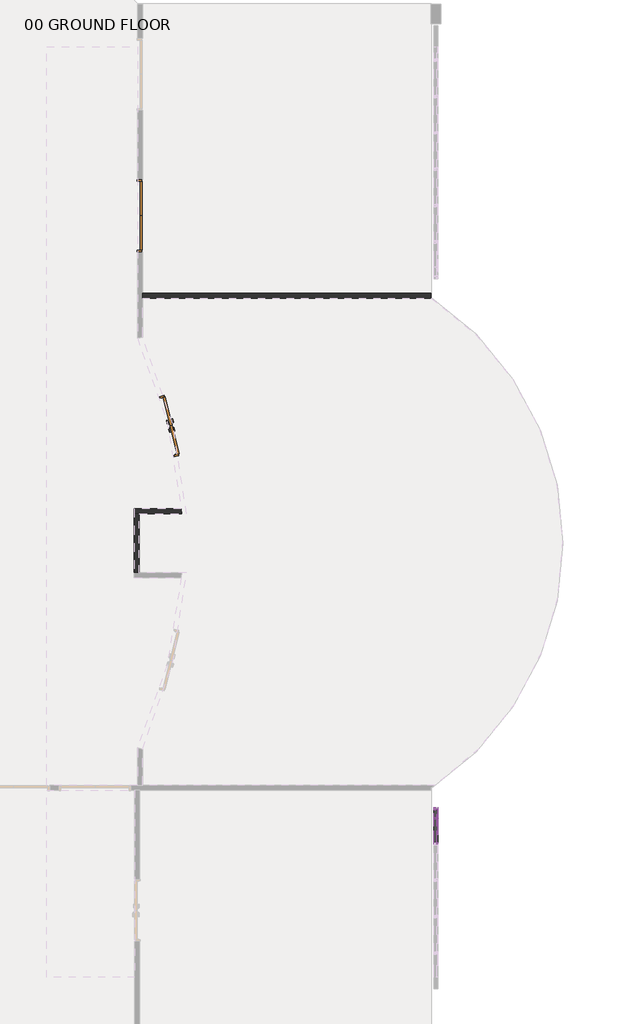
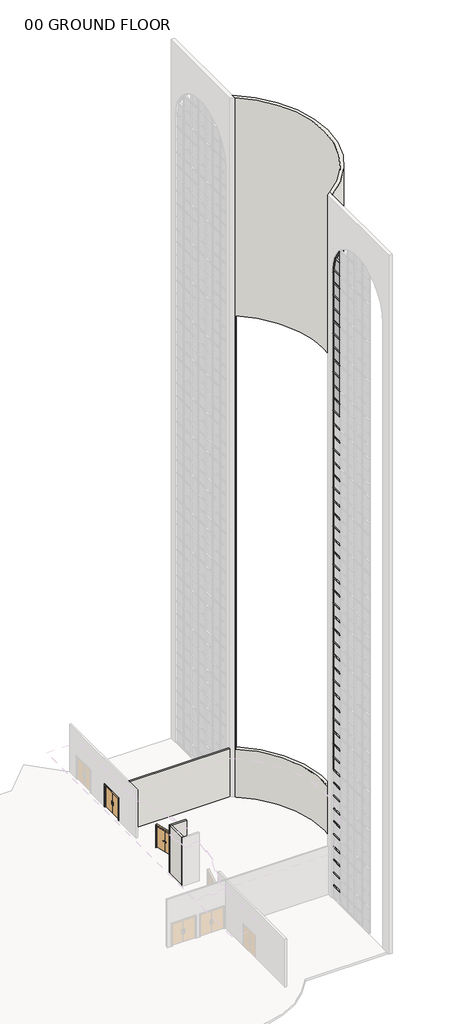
# One storey, part 23 of 33: 92 members, 12 plates, 4 walls, 2 doors.
"""IFC4 building model written with IfcOpenShell, lengths in millimetres."""

from ifc_helpers import new_model, si_unit, frame, origin, origin_with_axes, place, context, project, spatial, polyline, circle_curve, outline, extrude, transform, mapped, element, save
from ifc_brep_helpers import plane_surface, cylinder_surface, revolved_surface, advanced_brep
from components import door_2f250f70, door_b3a27a16, member_c70f70ef, member_fd4924df, member_7098706b, member_828826df, member_4be9bcbc, member_26cc132b, member_75074519, member_73c23c35, system_panel_glazed_b0e4ebfd, system_panel_glazed_f13d1862, system_panel_glazed_de491f5c

model = new_model("IFC4")

# Units and contexts
model_context = context("Model", 3, world=origin())
ifc_project = project(units=[si_unit("LENGTHUNIT", "METRE", prefix="MILLI")], contexts=[model_context])

# Site, building, storey
site = spatial("IfcSite", under=ifc_project)
building = spatial("IfcBuilding", under=site)
storey = spatial("IfcBuildingStorey", under=building, Name="00 GROUND FLOOR", Elevation=0.0)

# Doors
placement = place(None, origin())
door_shape = door_2f250f70(model_context)
element("IfcDoor", 1, ObjectType="Door-Passage-Double-Flush : 72\" x 82\"", at=placement, inside=storey, context=model_context, shape_type="MappedRepresentation", body=[
    mapped(door_shape, transform((35885.2621514, 20561.4429091, 0.0), x_axis=(0.23975975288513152, -0.9708322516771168, 0.0), y_axis=(0.9708322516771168, 0.23975975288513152, 0.0), z_axis=(0.0, 0.0, 1.0))),
])
door_2_shape = door_b3a27a16(model_context)
element("IfcDoor", 2, ObjectType="Door-Passage-Double-Flush-Dbl_Acting : 84\" x 84\"", at=placement, inside=storey, context=model_context, shape_type="MappedRepresentation", body=[
    mapped(door_2_shape, transform((34956.2675515, 27101.8, 0.0), x_axis=(0.0, -1.0, 0.0), y_axis=(1.0, 0.0, 0.0), z_axis=(0.0, 0.0, 1.0))),
])

# Members
member_shape = member_c70f70ef(model_context)
element("IfcMember", 3, ObjectType="Rectangular Mullion : 2.5\" x 5\" rectangular", at=placement, inside=storey, context=model_context, shape_type="MappedRepresentation", body=[
    mapped(member_shape, transform((44184.4050515, 8626.475, 1219.2), x_axis=(0.0, 0.0, 1.0), y_axis=(1.0, 0.0, 0.0), z_axis=(0.0, 1.0, 0.0))),
])
element("IfcMember", 4, ObjectType="Rectangular Mullion : 2.5\" x 5\" rectangular", at=placement, inside=storey, context=model_context, shape_type="MappedRepresentation", body=[
    mapped(member_shape, transform((44184.4050515, 8626.475, 2438.4), x_axis=(0.0, 0.0, 1.0), y_axis=(1.0, 0.0, 0.0), z_axis=(0.0, 1.0, 0.0))),
])
element("IfcMember", 5, ObjectType="Rectangular Mullion : 2.5\" x 5\" rectangular", at=placement, inside=storey, context=model_context, shape_type="MappedRepresentation", body=[
    mapped(member_shape, transform((44184.4050515, 8626.475, 3657.6), x_axis=(0.0, 0.0, 1.0), y_axis=(1.0, 0.0, 0.0), z_axis=(0.0, 1.0, 0.0))),
])
element("IfcMember", 6, ObjectType="Rectangular Mullion : 2.5\" x 5\" rectangular", at=placement, inside=storey, context=model_context, shape_type="MappedRepresentation", body=[
    mapped(member_shape, transform((44184.4050515, 8626.475, 4876.8), x_axis=(0.0, 0.0, 1.0), y_axis=(1.0, 0.0, 0.0), z_axis=(0.0, 1.0, 0.0))),
])
element("IfcMember", 7, ObjectType="Rectangular Mullion : 2.5\" x 5\" rectangular", at=placement, inside=storey, context=model_context, shape_type="MappedRepresentation", body=[
    mapped(member_shape, transform((44184.4050515, 8626.475, 6096.0), x_axis=(0.0, 0.0, 1.0), y_axis=(1.0, 0.0, 0.0), z_axis=(0.0, 1.0, 0.0))),
])
element("IfcMember", 8, ObjectType="Rectangular Mullion : 2.5\" x 5\" rectangular", at=placement, inside=storey, context=model_context, shape_type="MappedRepresentation", body=[
    mapped(member_shape, transform((44184.4050515, 8626.475, 7315.2), x_axis=(0.0, 0.0, 1.0), y_axis=(1.0, 0.0, 0.0), z_axis=(0.0, 1.0, 0.0))),
])
element("IfcMember", 9, ObjectType="Rectangular Mullion : 2.5\" x 5\" rectangular", at=placement, inside=storey, context=model_context, shape_type="MappedRepresentation", body=[
    mapped(member_shape, transform((44184.4050515, 8626.475, 8534.4), x_axis=(0.0, 0.0, 1.0), y_axis=(1.0, 0.0, 0.0), z_axis=(0.0, 1.0, 0.0))),
])
element("IfcMember", 10, ObjectType="Rectangular Mullion : 2.5\" x 5\" rectangular", at=placement, inside=storey, context=model_context, shape_type="MappedRepresentation", body=[
    mapped(member_shape, transform((44184.4050515, 8626.475, 9753.6), x_axis=(0.0, 0.0, 1.0), y_axis=(1.0, 0.0, 0.0), z_axis=(0.0, 1.0, 0.0))),
])
element("IfcMember", 11, ObjectType="Rectangular Mullion : 2.5\" x 5\" rectangular", at=placement, inside=storey, context=model_context, shape_type="MappedRepresentation", body=[
    mapped(member_shape, transform((44184.4050515, 8626.475, 10972.8), x_axis=(0.0, 0.0, 1.0), y_axis=(1.0, 0.0, 0.0), z_axis=(0.0, 1.0, 0.0))),
])
element("IfcMember", 12, ObjectType="Rectangular Mullion : 2.5\" x 5\" rectangular", at=placement, inside=storey, context=model_context, shape_type="MappedRepresentation", body=[
    mapped(member_shape, transform((44184.4050515, 8626.475, 12192.0), x_axis=(0.0, 0.0, 1.0), y_axis=(1.0, 0.0, 0.0), z_axis=(0.0, 1.0, 0.0))),
])
element("IfcMember", 13, ObjectType="Rectangular Mullion : 2.5\" x 5\" rectangular", at=placement, inside=storey, context=model_context, shape_type="MappedRepresentation", body=[
    mapped(member_shape, transform((44184.4050515, 8626.475, 13411.2), x_axis=(0.0, 0.0, 1.0), y_axis=(1.0, 0.0, 0.0), z_axis=(0.0, 1.0, 0.0))),
])
element("IfcMember", 14, ObjectType="Rectangular Mullion : 2.5\" x 5\" rectangular", at=placement, inside=storey, context=model_context, shape_type="MappedRepresentation", body=[
    mapped(member_shape, transform((44184.4050515, 8626.475, 14630.4), x_axis=(0.0, 0.0, 1.0), y_axis=(1.0, 0.0, 0.0), z_axis=(0.0, 1.0, 0.0))),
])
element("IfcMember", 15, ObjectType="Rectangular Mullion : 2.5\" x 5\" rectangular", at=placement, inside=storey, context=model_context, shape_type="MappedRepresentation", body=[
    mapped(member_shape, transform((44184.4050515, 8626.475, 15849.6), x_axis=(0.0, 0.0, 1.0), y_axis=(1.0, 0.0, 0.0), z_axis=(0.0, 1.0, 0.0))),
])
element("IfcMember", 16, ObjectType="Rectangular Mullion : 2.5\" x 5\" rectangular", at=placement, inside=storey, context=model_context, shape_type="MappedRepresentation", body=[
    mapped(member_shape, transform((44184.4050515, 8626.475, 17068.8), x_axis=(0.0, 0.0, 1.0), y_axis=(1.0, 0.0, 0.0), z_axis=(0.0, 1.0, 0.0))),
])
element("IfcMember", 17, ObjectType="Rectangular Mullion : 2.5\" x 5\" rectangular", at=placement, inside=storey, context=model_context, shape_type="MappedRepresentation", body=[
    mapped(member_shape, transform((44184.4050515, 8626.475, 18288.0), x_axis=(0.0, 0.0, 1.0), y_axis=(1.0, 0.0, 0.0), z_axis=(0.0, 1.0, 0.0))),
])
element("IfcMember", 18, ObjectType="Rectangular Mullion : 2.5\" x 5\" rectangular", at=placement, inside=storey, context=model_context, shape_type="MappedRepresentation", body=[
    mapped(member_shape, transform((44184.4050515, 8626.475, 19507.2), x_axis=(0.0, 0.0, 1.0), y_axis=(1.0, 0.0, 0.0), z_axis=(0.0, 1.0, 0.0))),
])
element("IfcMember", 19, ObjectType="Rectangular Mullion : 2.5\" x 5\" rectangular", at=placement, inside=storey, context=model_context, shape_type="MappedRepresentation", body=[
    mapped(member_shape, transform((44184.4050515, 8626.475, 20726.4), x_axis=(0.0, 0.0, 1.0), y_axis=(1.0, 0.0, 0.0), z_axis=(0.0, 1.0, 0.0))),
])
element("IfcMember", 20, ObjectType="Rectangular Mullion : 2.5\" x 5\" rectangular", at=placement, inside=storey, context=model_context, shape_type="MappedRepresentation", body=[
    mapped(member_shape, transform((44184.4050515, 8626.475, 21945.6), x_axis=(0.0, 0.0, 1.0), y_axis=(1.0, 0.0, 0.0), z_axis=(0.0, 1.0, 0.0))),
])
element("IfcMember", 21, ObjectType="Rectangular Mullion : 2.5\" x 5\" rectangular", at=placement, inside=storey, context=model_context, shape_type="MappedRepresentation", body=[
    mapped(member_shape, transform((44184.4050515, 8626.475, 23164.8), x_axis=(0.0, 0.0, 1.0), y_axis=(1.0, 0.0, 0.0), z_axis=(0.0, 1.0, 0.0))),
])
element("IfcMember", 22, ObjectType="Rectangular Mullion : 2.5\" x 5\" rectangular", at=placement, inside=storey, context=model_context, shape_type="MappedRepresentation", body=[
    mapped(member_shape, transform((44184.4050515, 8626.475, 24384.0), x_axis=(0.0, 0.0, 1.0), y_axis=(1.0, 0.0, 0.0), z_axis=(0.0, 1.0, 0.0))),
])
element("IfcMember", 23, ObjectType="Rectangular Mullion : 2.5\" x 5\" rectangular", at=placement, inside=storey, context=model_context, shape_type="MappedRepresentation", body=[
    mapped(member_shape, transform((44184.4050515, 8626.475, 25603.2), x_axis=(0.0, 0.0, 1.0), y_axis=(1.0, 0.0, 0.0), z_axis=(0.0, 1.0, 0.0))),
])
element("IfcMember", 24, ObjectType="Rectangular Mullion : 2.5\" x 5\" rectangular", at=placement, inside=storey, context=model_context, shape_type="MappedRepresentation", body=[
    mapped(member_shape, transform((44184.4050515, 8626.475, 26822.4), x_axis=(0.0, 0.0, 1.0), y_axis=(1.0, 0.0, 0.0), z_axis=(0.0, 1.0, 0.0))),
])
element("IfcMember", 25, ObjectType="Rectangular Mullion : 2.5\" x 5\" rectangular", at=placement, inside=storey, context=model_context, shape_type="MappedRepresentation", body=[
    mapped(member_shape, transform((44184.4050515, 8626.475, 28041.6), x_axis=(0.0, 0.0, 1.0), y_axis=(1.0, 0.0, 0.0), z_axis=(0.0, 1.0, 0.0))),
])
element("IfcMember", 26, ObjectType="Rectangular Mullion : 2.5\" x 5\" rectangular", at=placement, inside=storey, context=model_context, shape_type="MappedRepresentation", body=[
    mapped(member_shape, transform((44184.4050515, 8626.475, 29260.8), x_axis=(0.0, 0.0, 1.0), y_axis=(1.0, 0.0, 0.0), z_axis=(0.0, 1.0, 0.0))),
])
element("IfcMember", 27, ObjectType="Rectangular Mullion : 2.5\" x 5\" rectangular", at=placement, inside=storey, context=model_context, shape_type="MappedRepresentation", body=[
    mapped(member_shape, transform((44184.4050515, 8626.475, 30480.0), x_axis=(0.0, 0.0, 1.0), y_axis=(1.0, 0.0, 0.0), z_axis=(0.0, 1.0, 0.0))),
])
element("IfcMember", 28, ObjectType="Rectangular Mullion : 2.5\" x 5\" rectangular", at=placement, inside=storey, context=model_context, shape_type="MappedRepresentation", body=[
    mapped(member_shape, transform((44184.4050515, 8626.475, 31699.2), x_axis=(0.0, 0.0, 1.0), y_axis=(1.0, 0.0, 0.0), z_axis=(0.0, 1.0, 0.0))),
])
element("IfcMember", 29, ObjectType="Rectangular Mullion : 2.5\" x 5\" rectangular", at=placement, inside=storey, context=model_context, shape_type="MappedRepresentation", body=[
    mapped(member_shape, transform((44184.4050515, 8626.475, 32918.4), x_axis=(0.0, 0.0, 1.0), y_axis=(1.0, 0.0, 0.0), z_axis=(0.0, 1.0, 0.0))),
])
element("IfcMember", 30, ObjectType="Rectangular Mullion : 2.5\" x 5\" rectangular", at=placement, inside=storey, context=model_context, shape_type="MappedRepresentation", body=[
    mapped(member_shape, transform((44184.4050515, 8626.475, 34137.6), x_axis=(0.0, 0.0, 1.0), y_axis=(1.0, 0.0, 0.0), z_axis=(0.0, 1.0, 0.0))),
])
element("IfcMember", 31, ObjectType="Rectangular Mullion : 2.5\" x 5\" rectangular", at=placement, inside=storey, context=model_context, shape_type="MappedRepresentation", body=[
    mapped(member_shape, transform((44184.4050515, 8626.475, 35356.8), x_axis=(0.0, 0.0, 1.0), y_axis=(1.0, 0.0, 0.0), z_axis=(0.0, 1.0, 0.0))),
])
element("IfcMember", 32, ObjectType="Rectangular Mullion : 2.5\" x 5\" rectangular", at=placement, inside=storey, context=model_context, shape_type="MappedRepresentation", body=[
    mapped(member_shape, transform((44184.4050515, 8626.475, 36576.0), x_axis=(0.0, 0.0, 1.0), y_axis=(1.0, 0.0, 0.0), z_axis=(0.0, 1.0, 0.0))),
])
element("IfcMember", 33, ObjectType="Rectangular Mullion : 2.5\" x 5\" rectangular", at=placement, inside=storey, context=model_context, shape_type="MappedRepresentation", body=[
    mapped(member_shape, transform((44184.4050515, 8626.475, 37795.2), x_axis=(0.0, 0.0, 1.0), y_axis=(1.0, 0.0, 0.0), z_axis=(0.0, 1.0, 0.0))),
])
element("IfcMember", 34, ObjectType="Rectangular Mullion : 2.5\" x 5\" rectangular", at=placement, inside=storey, context=model_context, shape_type="MappedRepresentation", body=[
    mapped(member_shape, transform((44184.4050515, 8626.475, 39014.4), x_axis=(0.0, 0.0, 1.0), y_axis=(1.0, 0.0, 0.0), z_axis=(0.0, 1.0, 0.0))),
])
element("IfcMember", 35, ObjectType="Rectangular Mullion : 2.5\" x 5\" rectangular", at=placement, inside=storey, context=model_context, shape_type="MappedRepresentation", body=[
    mapped(member_shape, transform((44184.4050515, 8626.475, 40233.6), x_axis=(0.0, 0.0, 1.0), y_axis=(1.0, 0.0, 0.0), z_axis=(0.0, 1.0, 0.0))),
])
element("IfcMember", 36, ObjectType="Rectangular Mullion : 2.5\" x 5\" rectangular", at=placement, inside=storey, context=model_context, shape_type="MappedRepresentation", body=[
    mapped(member_shape, transform((44184.4050515, 8626.475, 41452.8), x_axis=(0.0, 0.0, 1.0), y_axis=(1.0, 0.0, 0.0), z_axis=(0.0, 1.0, 0.0))),
])
element("IfcMember", 37, ObjectType="Rectangular Mullion : 2.5\" x 5\" rectangular", at=placement, inside=storey, context=model_context, shape_type="MappedRepresentation", body=[
    mapped(member_shape, transform((44184.4050515, 8626.475, 42672.0), x_axis=(0.0, 0.0, 1.0), y_axis=(1.0, 0.0, 0.0), z_axis=(0.0, 1.0, 0.0))),
])
element("IfcMember", 38, ObjectType="Rectangular Mullion : 2.5\" x 5\" rectangular", at=placement, inside=storey, context=model_context, shape_type="MappedRepresentation", body=[
    mapped(member_shape, transform((44184.4050515, 8626.475, 43891.2), x_axis=(0.0, 0.0, 1.0), y_axis=(1.0, 0.0, 0.0), z_axis=(0.0, 1.0, 0.0))),
])
element("IfcMember", 39, ObjectType="Rectangular Mullion : 2.5\" x 5\" rectangular", at=placement, inside=storey, context=model_context, shape_type="MappedRepresentation", body=[
    mapped(member_shape, transform((44184.4050515, 8626.475, 45110.4), x_axis=(0.0, 0.0, 1.0), y_axis=(1.0, 0.0, 0.0), z_axis=(0.0, 1.0, 0.0))),
])
element("IfcMember", 40, ObjectType="Rectangular Mullion : 2.5\" x 5\" rectangular", at=placement, inside=storey, context=model_context, shape_type="MappedRepresentation", body=[
    mapped(member_shape, transform((44184.4050515, 8626.475, 46329.6), x_axis=(0.0, 0.0, 1.0), y_axis=(1.0, 0.0, 0.0), z_axis=(0.0, 1.0, 0.0))),
])
element("IfcMember", 41, ObjectType="Rectangular Mullion : 2.5\" x 5\" rectangular", at=placement, inside=storey, context=model_context, shape_type="MappedRepresentation", body=[
    mapped(member_shape, transform((44184.4050515, 8626.475, 47548.8), x_axis=(0.0, 0.0, 1.0), y_axis=(1.0, 0.0, 0.0), z_axis=(0.0, 1.0, 0.0))),
])
element("IfcMember", 42, ObjectType="Rectangular Mullion : 2.5\" x 5\" rectangular", at=placement, inside=storey, context=model_context, shape_type="MappedRepresentation", body=[
    mapped(member_shape, transform((44184.4050515, 8626.475, 48768.0), x_axis=(0.0, 0.0, 1.0), y_axis=(1.0, 0.0, 0.0), z_axis=(0.0, 1.0, 0.0))),
])
element("IfcMember", 43, ObjectType="Rectangular Mullion : 2.5\" x 5\" rectangular", at=placement, inside=storey, context=model_context, shape_type="MappedRepresentation", body=[
    mapped(member_shape, transform((44184.4050515, 8626.475, 49987.2), x_axis=(0.0, 0.0, 1.0), y_axis=(1.0, 0.0, 0.0), z_axis=(0.0, 1.0, 0.0))),
])
element("IfcMember", 44, ObjectType="Rectangular Mullion : 2.5\" x 5\" rectangular", at=placement, inside=storey, context=model_context, shape_type="MappedRepresentation", body=[
    mapped(member_shape, transform((44184.4050515, 8626.475, 51206.4), x_axis=(0.0, 0.0, 1.0), y_axis=(1.0, 0.0, 0.0), z_axis=(0.0, 1.0, 0.0))),
])
element("IfcMember", 45, ObjectType="Rectangular Mullion : 2.5\" x 5\" rectangular", at=placement, inside=storey, context=model_context, shape_type="MappedRepresentation", body=[
    mapped(member_shape, transform((44184.4050515, 8626.475, 52425.6), x_axis=(0.0, 0.0, 1.0), y_axis=(1.0, 0.0, 0.0), z_axis=(0.0, 1.0, 0.0))),
])
element("IfcMember", 46, ObjectType="Rectangular Mullion : 2.5\" x 5\" rectangular", at=placement, inside=storey, context=model_context, shape_type="MappedRepresentation", body=[
    mapped(member_shape, transform((44184.4050515, 8626.475, 53644.8), x_axis=(0.0, 0.0, 1.0), y_axis=(1.0, 0.0, 0.0), z_axis=(0.0, 1.0, 0.0))),
])
element("IfcMember", 47, ObjectType="Rectangular Mullion : 2.5\" x 5\" rectangular", at=placement, inside=storey, context=model_context, shape_type="MappedRepresentation", body=[
    mapped(member_shape, transform((44184.4050515, 8626.475, 54864.0), x_axis=(0.0, 0.0, 1.0), y_axis=(1.0, 0.0, 0.0), z_axis=(0.0, 1.0, 0.0))),
])
element("IfcMember", 48, ObjectType="Rectangular Mullion : 2.5\" x 5\" rectangular", at=placement, inside=storey, context=model_context, shape_type="MappedRepresentation", body=[
    mapped(member_shape, transform((44184.4050515, 8626.475, 56083.2), x_axis=(0.0, 0.0, 1.0), y_axis=(1.0, 0.0, 0.0), z_axis=(0.0, 1.0, 0.0))),
])
element("IfcMember", 49, ObjectType="Rectangular Mullion : 2.5\" x 5\" rectangular", at=placement, inside=storey, context=model_context, shape_type="MappedRepresentation", body=[
    mapped(member_shape, transform((44184.4050515, 8626.475, 57302.4), x_axis=(0.0, 0.0, 1.0), y_axis=(1.0, 0.0, 0.0), z_axis=(0.0, 1.0, 0.0))),
])
element("IfcMember", 50, ObjectType="Rectangular Mullion : 2.5\" x 5\" rectangular", at=placement, inside=storey, context=model_context, shape_type="MappedRepresentation", body=[
    mapped(member_shape, transform((44184.4050515, 8626.475, 58521.6), x_axis=(0.0, 0.0, 1.0), y_axis=(1.0, 0.0, 0.0), z_axis=(0.0, 1.0, 0.0))),
])
member_2_shape = member_fd4924df(model_context)
element("IfcMember", 51, ObjectType="Rectangular Mullion : 2.5\" x 5\" rectangular", at=placement, inside=storey, context=model_context, shape_type="MappedRepresentation", body=[
    mapped(member_2_shape, transform((44184.4050515, 8689.975, 59436.0), x_axis=(0.0, 1.0, 0.0), y_axis=(1.0, 0.0, 0.0), z_axis=(0.0, 0.0, -1.0))),
])
member_3_shape = member_7098706b(model_context)
element("IfcMember", 52, ObjectType="Rectangular Mullion : 2.5\" x 5\" rectangular", at=placement, inside=storey, context=model_context, shape_type="MappedRepresentation", body=[
    mapped(member_3_shape, transform((44184.4050515, 8678.2345297, 59740.8), x_axis=(0.0, 0.9970370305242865, 0.07692307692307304), y_axis=(1.0, 0.0, 0.0), z_axis=(0.0, 0.07692307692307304, -0.9970370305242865))),
])
member_4_shape = member_828826df(model_context)
element("IfcMember", 53, ObjectType="Rectangular Mullion : 2.5\" x 5\" rectangular", at=placement, inside=storey, context=model_context, shape_type="MappedRepresentation", body=[
    mapped(member_4_shape, transform((44184.4050515, 8385.175, 60960.0), x_axis=(0.0, 0.9230769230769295, 0.3846153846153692), y_axis=(1.0, 0.0, 0.0), z_axis=(0.0, 0.3846153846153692, -0.9230769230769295))),
])
member_5_shape = member_4be9bcbc(model_context)
element("IfcMember", 54, ObjectType="Rectangular Mullion : 2.5\" x 5\" rectangular", at=placement, inside=storey, context=model_context, shape_type="MappedRepresentation", body=[
    mapped(member_5_shape, transform((44184.4050515, 8678.2345297, 59740.8), x_axis=(0.0, 0.0, 1.0), y_axis=(1.0, 0.0, 0.0), z_axis=(0.0, 1.0, 0.0))),
])
member_6_shape = member_26cc132b(model_context)
element("IfcMember", 55, ObjectType="Rectangular Mullion : 2.5\" x 5\" rectangular", at=placement, inside=storey, context=model_context, shape_type="MappedRepresentation", body=[
    mapped(member_6_shape, transform((44184.4050515, 8385.175, 60960.0), x_axis=(0.0, 0.0, 1.0), y_axis=(1.0, 0.0, 0.0), z_axis=(0.0, 1.0, 0.0))),
])
member_7_shape = member_75074519(model_context)
element("IfcMember", 56, ObjectType="Rectangular Mullion : 2.5\" x 5\" rectangular", at=placement, inside=storey, context=model_context, shape_type="MappedRepresentation", body=[
    mapped(member_7_shape, transform((44184.4050515, 8689.975, 12192.0), x_axis=(0.0, 1.0, 0.0), y_axis=(1.0, 0.0, 0.0), z_axis=(0.0, 0.0, -1.0))),
])
element("IfcMember", 57, ObjectType="Rectangular Mullion : 2.5\" x 5\" rectangular", at=placement, inside=storey, context=model_context, shape_type="MappedRepresentation", body=[
    mapped(member_7_shape, transform((44184.4050515, 8689.975, 13411.2), x_axis=(0.0, 1.0, 0.0), y_axis=(1.0, 0.0, 0.0), z_axis=(0.0, 0.0, -1.0))),
])
element("IfcMember", 58, ObjectType="Rectangular Mullion : 2.5\" x 5\" rectangular", at=placement, inside=storey, context=model_context, shape_type="MappedRepresentation", body=[
    mapped(member_7_shape, transform((44184.4050515, 8689.975, 14630.4), x_axis=(0.0, 1.0, 0.0), y_axis=(1.0, 0.0, 0.0), z_axis=(0.0, 0.0, -1.0))),
])
element("IfcMember", 59, ObjectType="Rectangular Mullion : 2.5\" x 5\" rectangular", at=placement, inside=storey, context=model_context, shape_type="MappedRepresentation", body=[
    mapped(member_7_shape, transform((44184.4050515, 8689.975, 15849.6), x_axis=(0.0, 1.0, 0.0), y_axis=(1.0, 0.0, 0.0), z_axis=(0.0, 0.0, -1.0))),
])
element("IfcMember", 60, ObjectType="Rectangular Mullion : 2.5\" x 5\" rectangular", at=placement, inside=storey, context=model_context, shape_type="MappedRepresentation", body=[
    mapped(member_7_shape, transform((44184.4050515, 8689.975, 17068.8), x_axis=(0.0, 1.0, 0.0), y_axis=(1.0, 0.0, 0.0), z_axis=(0.0, 0.0, -1.0))),
])
element("IfcMember", 61, ObjectType="Rectangular Mullion : 2.5\" x 5\" rectangular", at=placement, inside=storey, context=model_context, shape_type="MappedRepresentation", body=[
    mapped(member_7_shape, transform((44184.4050515, 8689.975, 18288.0), x_axis=(0.0, 1.0, 0.0), y_axis=(1.0, 0.0, 0.0), z_axis=(0.0, 0.0, -1.0))),
])
element("IfcMember", 62, ObjectType="Rectangular Mullion : 2.5\" x 5\" rectangular", at=placement, inside=storey, context=model_context, shape_type="MappedRepresentation", body=[
    mapped(member_7_shape, transform((44184.4050515, 8689.975, 19507.2), x_axis=(0.0, 1.0, 0.0), y_axis=(1.0, 0.0, 0.0), z_axis=(0.0, 0.0, -1.0))),
])
element("IfcMember", 63, ObjectType="Rectangular Mullion : 2.5\" x 5\" rectangular", at=placement, inside=storey, context=model_context, shape_type="MappedRepresentation", body=[
    mapped(member_7_shape, transform((44184.4050515, 8689.975, 20726.4), x_axis=(0.0, 1.0, 0.0), y_axis=(1.0, 0.0, 0.0), z_axis=(0.0, 0.0, -1.0))),
])
element("IfcMember", 64, ObjectType="Rectangular Mullion : 2.5\" x 5\" rectangular", at=placement, inside=storey, context=model_context, shape_type="MappedRepresentation", body=[
    mapped(member_7_shape, transform((44184.4050515, 8689.975, 21945.6), x_axis=(0.0, 1.0, 0.0), y_axis=(1.0, 0.0, 0.0), z_axis=(0.0, 0.0, -1.0))),
])
element("IfcMember", 65, ObjectType="Rectangular Mullion : 2.5\" x 5\" rectangular", at=placement, inside=storey, context=model_context, shape_type="MappedRepresentation", body=[
    mapped(member_7_shape, transform((44184.4050515, 8689.975, 23164.8), x_axis=(0.0, 1.0, 0.0), y_axis=(1.0, 0.0, 0.0), z_axis=(0.0, 0.0, -1.0))),
])
element("IfcMember", 66, ObjectType="Rectangular Mullion : 2.5\" x 5\" rectangular", at=placement, inside=storey, context=model_context, shape_type="MappedRepresentation", body=[
    mapped(member_7_shape, transform((44184.4050515, 8689.975, 24384.0), x_axis=(0.0, 1.0, 0.0), y_axis=(1.0, 0.0, 0.0), z_axis=(0.0, 0.0, -1.0))),
])
element("IfcMember", 67, ObjectType="Rectangular Mullion : 2.5\" x 5\" rectangular", at=placement, inside=storey, context=model_context, shape_type="MappedRepresentation", body=[
    mapped(member_7_shape, transform((44184.4050515, 8689.975, 25603.2), x_axis=(0.0, 1.0, 0.0), y_axis=(1.0, 0.0, 0.0), z_axis=(0.0, 0.0, -1.0))),
])
element("IfcMember", 68, ObjectType="Rectangular Mullion : 2.5\" x 5\" rectangular", at=placement, inside=storey, context=model_context, shape_type="MappedRepresentation", body=[
    mapped(member_7_shape, transform((44184.4050515, 8689.975, 26822.4), x_axis=(0.0, 1.0, 0.0), y_axis=(1.0, 0.0, 0.0), z_axis=(0.0, 0.0, -1.0))),
])
element("IfcMember", 69, ObjectType="Rectangular Mullion : 2.5\" x 5\" rectangular", at=placement, inside=storey, context=model_context, shape_type="MappedRepresentation", body=[
    mapped(member_7_shape, transform((44184.4050515, 8689.975, 28041.6), x_axis=(0.0, 1.0, 0.0), y_axis=(1.0, 0.0, 0.0), z_axis=(0.0, 0.0, -1.0))),
])
element("IfcMember", 70, ObjectType="Rectangular Mullion : 2.5\" x 5\" rectangular", at=placement, inside=storey, context=model_context, shape_type="MappedRepresentation", body=[
    mapped(member_7_shape, transform((44184.4050515, 8689.975, 29260.8), x_axis=(0.0, 1.0, 0.0), y_axis=(1.0, 0.0, 0.0), z_axis=(0.0, 0.0, -1.0))),
])
element("IfcMember", 71, ObjectType="Rectangular Mullion : 2.5\" x 5\" rectangular", at=placement, inside=storey, context=model_context, shape_type="MappedRepresentation", body=[
    mapped(member_7_shape, transform((44184.4050515, 8689.975, 30480.0), x_axis=(0.0, 1.0, 0.0), y_axis=(1.0, 0.0, 0.0), z_axis=(0.0, 0.0, -1.0))),
])
element("IfcMember", 72, ObjectType="Rectangular Mullion : 2.5\" x 5\" rectangular", at=placement, inside=storey, context=model_context, shape_type="MappedRepresentation", body=[
    mapped(member_7_shape, transform((44184.4050515, 8689.975, 31699.2), x_axis=(0.0, 1.0, 0.0), y_axis=(1.0, 0.0, 0.0), z_axis=(0.0, 0.0, -1.0))),
])
element("IfcMember", 73, ObjectType="Rectangular Mullion : 2.5\" x 5\" rectangular", at=placement, inside=storey, context=model_context, shape_type="MappedRepresentation", body=[
    mapped(member_7_shape, transform((44184.4050515, 8689.975, 32918.4), x_axis=(0.0, 1.0, 0.0), y_axis=(1.0, 0.0, 0.0), z_axis=(0.0, 0.0, -1.0))),
])
element("IfcMember", 74, ObjectType="Rectangular Mullion : 2.5\" x 5\" rectangular", at=placement, inside=storey, context=model_context, shape_type="MappedRepresentation", body=[
    mapped(member_7_shape, transform((44184.4050515, 8689.975, 34137.6), x_axis=(0.0, 1.0, 0.0), y_axis=(1.0, 0.0, 0.0), z_axis=(0.0, 0.0, -1.0))),
])
element("IfcMember", 75, ObjectType="Rectangular Mullion : 2.5\" x 5\" rectangular", at=placement, inside=storey, context=model_context, shape_type="MappedRepresentation", body=[
    mapped(member_7_shape, transform((44184.4050515, 8689.975, 35356.8), x_axis=(0.0, 1.0, 0.0), y_axis=(1.0, 0.0, 0.0), z_axis=(0.0, 0.0, -1.0))),
])
element("IfcMember", 76, ObjectType="Rectangular Mullion : 2.5\" x 5\" rectangular", at=placement, inside=storey, context=model_context, shape_type="MappedRepresentation", body=[
    mapped(member_7_shape, transform((44184.4050515, 8689.975, 36576.0), x_axis=(0.0, 1.0, 0.0), y_axis=(1.0, 0.0, 0.0), z_axis=(0.0, 0.0, -1.0))),
])
element("IfcMember", 77, ObjectType="Rectangular Mullion : 2.5\" x 5\" rectangular", at=placement, inside=storey, context=model_context, shape_type="MappedRepresentation", body=[
    mapped(member_7_shape, transform((44184.4050515, 8689.975, 37795.2), x_axis=(0.0, 1.0, 0.0), y_axis=(1.0, 0.0, 0.0), z_axis=(0.0, 0.0, -1.0))),
])
element("IfcMember", 78, ObjectType="Rectangular Mullion : 2.5\" x 5\" rectangular", at=placement, inside=storey, context=model_context, shape_type="MappedRepresentation", body=[
    mapped(member_7_shape, transform((44184.4050515, 8689.975, 39014.4), x_axis=(0.0, 1.0, 0.0), y_axis=(1.0, 0.0, 0.0), z_axis=(0.0, 0.0, -1.0))),
])
element("IfcMember", 79, ObjectType="Rectangular Mullion : 2.5\" x 5\" rectangular", at=placement, inside=storey, context=model_context, shape_type="MappedRepresentation", body=[
    mapped(member_7_shape, transform((44184.4050515, 8689.975, 40233.6), x_axis=(0.0, 1.0, 0.0), y_axis=(1.0, 0.0, 0.0), z_axis=(0.0, 0.0, -1.0))),
])
element("IfcMember", 80, ObjectType="Rectangular Mullion : 2.5\" x 5\" rectangular", at=placement, inside=storey, context=model_context, shape_type="MappedRepresentation", body=[
    mapped(member_7_shape, transform((44184.4050515, 8689.975, 41452.8), x_axis=(0.0, 1.0, 0.0), y_axis=(1.0, 0.0, 0.0), z_axis=(0.0, 0.0, -1.0))),
])
element("IfcMember", 81, ObjectType="Rectangular Mullion : 2.5\" x 5\" rectangular", at=placement, inside=storey, context=model_context, shape_type="MappedRepresentation", body=[
    mapped(member_7_shape, transform((44184.4050515, 8689.975, 42672.0), x_axis=(0.0, 1.0, 0.0), y_axis=(1.0, 0.0, 0.0), z_axis=(0.0, 0.0, -1.0))),
])
element("IfcMember", 82, ObjectType="Rectangular Mullion : 2.5\" x 5\" rectangular", at=placement, inside=storey, context=model_context, shape_type="MappedRepresentation", body=[
    mapped(member_7_shape, transform((44184.4050515, 8689.975, 43891.2), x_axis=(0.0, 1.0, 0.0), y_axis=(1.0, 0.0, 0.0), z_axis=(0.0, 0.0, -1.0))),
])
element("IfcMember", 83, ObjectType="Rectangular Mullion : 2.5\" x 5\" rectangular", at=placement, inside=storey, context=model_context, shape_type="MappedRepresentation", body=[
    mapped(member_7_shape, transform((44184.4050515, 8689.975, 45110.4), x_axis=(0.0, 1.0, 0.0), y_axis=(1.0, 0.0, 0.0), z_axis=(0.0, 0.0, -1.0))),
])
element("IfcMember", 84, ObjectType="Rectangular Mullion : 2.5\" x 5\" rectangular", at=placement, inside=storey, context=model_context, shape_type="MappedRepresentation", body=[
    mapped(member_7_shape, transform((44184.4050515, 8689.975, 46329.6), x_axis=(0.0, 1.0, 0.0), y_axis=(1.0, 0.0, 0.0), z_axis=(0.0, 0.0, -1.0))),
])
element("IfcMember", 85, ObjectType="Rectangular Mullion : 2.5\" x 5\" rectangular", at=placement, inside=storey, context=model_context, shape_type="MappedRepresentation", body=[
    mapped(member_7_shape, transform((44184.4050515, 8689.975, 47548.8), x_axis=(0.0, 1.0, 0.0), y_axis=(1.0, 0.0, 0.0), z_axis=(0.0, 0.0, -1.0))),
])
element("IfcMember", 86, ObjectType="Rectangular Mullion : 2.5\" x 5\" rectangular", at=placement, inside=storey, context=model_context, shape_type="MappedRepresentation", body=[
    mapped(member_7_shape, transform((44184.4050515, 8689.975, 48768.0), x_axis=(0.0, 1.0, 0.0), y_axis=(1.0, 0.0, 0.0), z_axis=(0.0, 0.0, -1.0))),
])
element("IfcMember", 87, ObjectType="Rectangular Mullion : 2.5\" x 5\" rectangular", at=placement, inside=storey, context=model_context, shape_type="MappedRepresentation", body=[
    mapped(member_7_shape, transform((44184.4050515, 8689.975, 49987.2), x_axis=(0.0, 1.0, 0.0), y_axis=(1.0, 0.0, 0.0), z_axis=(0.0, 0.0, -1.0))),
])
element("IfcMember", 88, ObjectType="Rectangular Mullion : 2.5\" x 5\" rectangular", at=placement, inside=storey, context=model_context, shape_type="MappedRepresentation", body=[
    mapped(member_7_shape, transform((44184.4050515, 8689.975, 51206.4), x_axis=(0.0, 1.0, 0.0), y_axis=(1.0, 0.0, 0.0), z_axis=(0.0, 0.0, -1.0))),
])
element("IfcMember", 89, ObjectType="Rectangular Mullion : 2.5\" x 5\" rectangular", at=placement, inside=storey, context=model_context, shape_type="MappedRepresentation", body=[
    mapped(member_7_shape, transform((44184.4050515, 8689.975, 52425.6), x_axis=(0.0, 1.0, 0.0), y_axis=(1.0, 0.0, 0.0), z_axis=(0.0, 0.0, -1.0))),
])
element("IfcMember", 90, ObjectType="Rectangular Mullion : 2.5\" x 5\" rectangular", at=placement, inside=storey, context=model_context, shape_type="MappedRepresentation", body=[
    mapped(member_7_shape, transform((44184.4050515, 8689.975, 53644.8), x_axis=(0.0, 1.0, 0.0), y_axis=(1.0, 0.0, 0.0), z_axis=(0.0, 0.0, -1.0))),
])
element("IfcMember", 91, ObjectType="Rectangular Mullion : 2.5\" x 5\" rectangular", at=placement, inside=storey, context=model_context, shape_type="MappedRepresentation", body=[
    mapped(member_7_shape, transform((44184.4050515, 8689.975, 54864.0), x_axis=(0.0, 1.0, 0.0), y_axis=(1.0, 0.0, 0.0), z_axis=(0.0, 0.0, -1.0))),
])
element("IfcMember", 92, ObjectType="Rectangular Mullion : 2.5\" x 5\" rectangular", at=placement, inside=storey, context=model_context, shape_type="MappedRepresentation", body=[
    mapped(member_7_shape, transform((44184.4050515, 8689.975, 56083.2), x_axis=(0.0, 1.0, 0.0), y_axis=(1.0, 0.0, 0.0), z_axis=(0.0, 0.0, -1.0))),
])
element("IfcMember", 93, ObjectType="Rectangular Mullion : 2.5\" x 5\" rectangular", at=placement, inside=storey, context=model_context, shape_type="MappedRepresentation", body=[
    mapped(member_7_shape, transform((44184.4050515, 8689.975, 57302.4), x_axis=(0.0, 1.0, 0.0), y_axis=(1.0, 0.0, 0.0), z_axis=(0.0, 0.0, -1.0))),
])
member_8_shape = member_73c23c35(model_context)
element("IfcMember", 94, ObjectType="Rectangular Mullion : 2.5\" x 5\" rectangular", at=placement, inside=storey, context=model_context, shape_type="MappedRepresentation", body=[
    mapped(member_8_shape, transform((44184.4050515, 8689.975, 58521.6), x_axis=(0.0, 1.0, 0.0), y_axis=(1.0, 0.0, 0.0), z_axis=(0.0, 0.0, -1.0))),
])

# Plates
system_panel_glazed_shape = system_panel_glazed_b0e4ebfd(model_context)
element("IfcPlate", 95, ObjectType="System Panel : Glazed", at=placement, inside=storey, context=model_context, shape_type="MappedRepresentation", body=[
    mapped(system_panel_glazed_shape, transform((44184.4050515, 8108.042857, 46361.35), x_axis=(0.0, 1.0, 0.0), y_axis=(-1.0, 0.0, 0.0), z_axis=(0.0, 0.0, 1.0))),
])
element("IfcPlate", 96, ObjectType="System Panel : Glazed", at=placement, inside=storey, context=model_context, shape_type="MappedRepresentation", body=[
    mapped(system_panel_glazed_shape, transform((44184.4050515, 8108.042857, 47580.55), x_axis=(0.0, 1.0, 0.0), y_axis=(-1.0, 0.0, 0.0), z_axis=(0.0, 0.0, 1.0))),
])
element("IfcPlate", 97, ObjectType="System Panel : Glazed", at=placement, inside=storey, context=model_context, shape_type="MappedRepresentation", body=[
    mapped(system_panel_glazed_shape, transform((44184.4050515, 8108.042857, 48799.75), x_axis=(0.0, 1.0, 0.0), y_axis=(-1.0, 0.0, 0.0), z_axis=(0.0, 0.0, 1.0))),
])
element("IfcPlate", 98, ObjectType="System Panel : Glazed", at=placement, inside=storey, context=model_context, shape_type="MappedRepresentation", body=[
    mapped(system_panel_glazed_shape, transform((44184.4050515, 8108.042857, 50018.95), x_axis=(0.0, 1.0, 0.0), y_axis=(-1.0, 0.0, 0.0), z_axis=(0.0, 0.0, 1.0))),
])
element("IfcPlate", 99, ObjectType="System Panel : Glazed", at=placement, inside=storey, context=model_context, shape_type="MappedRepresentation", body=[
    mapped(system_panel_glazed_shape, transform((44184.4050515, 8108.042857, 51238.15), x_axis=(0.0, 1.0, 0.0), y_axis=(-1.0, 0.0, 0.0), z_axis=(0.0, 0.0, 1.0))),
])
element("IfcPlate", 100, ObjectType="System Panel : Glazed", at=placement, inside=storey, context=model_context, shape_type="MappedRepresentation", body=[
    mapped(system_panel_glazed_shape, transform((44184.4050515, 8108.042857, 52457.35), x_axis=(0.0, 1.0, 0.0), y_axis=(-1.0, 0.0, 0.0), z_axis=(0.0, 0.0, 1.0))),
])
element("IfcPlate", 101, ObjectType="System Panel : Glazed", at=placement, inside=storey, context=model_context, shape_type="MappedRepresentation", body=[
    mapped(system_panel_glazed_shape, transform((44184.4050515, 8108.042857, 53676.55), x_axis=(0.0, 1.0, 0.0), y_axis=(-1.0, 0.0, 0.0), z_axis=(0.0, 0.0, 1.0))),
])
element("IfcPlate", 102, ObjectType="System Panel : Glazed", at=placement, inside=storey, context=model_context, shape_type="MappedRepresentation", body=[
    mapped(system_panel_glazed_shape, transform((44184.4050515, 8108.042857, 54895.75), x_axis=(0.0, 1.0, 0.0), y_axis=(-1.0, 0.0, 0.0), z_axis=(0.0, 0.0, 1.0))),
])
element("IfcPlate", 103, ObjectType="System Panel : Glazed", at=placement, inside=storey, context=model_context, shape_type="MappedRepresentation", body=[
    mapped(system_panel_glazed_shape, transform((44184.4050515, 8108.042857, 56114.95), x_axis=(0.0, 1.0, 0.0), y_axis=(-1.0, 0.0, 0.0), z_axis=(0.0, 0.0, 1.0))),
])
element("IfcPlate", 104, ObjectType="System Panel : Glazed", at=placement, inside=storey, context=model_context, shape_type="MappedRepresentation", body=[
    mapped(system_panel_glazed_shape, transform((44184.4050515, 8108.042857, 57334.15), x_axis=(0.0, 1.0, 0.0), y_axis=(-1.0, 0.0, 0.0), z_axis=(0.0, 0.0, 1.0))),
])
system_panel_glazed_2_shape = system_panel_glazed_f13d1862(model_context)
element("IfcPlate", 105, ObjectType="System Panel : Glazed", at=placement, inside=storey, context=model_context, shape_type="MappedRepresentation", body=[
    mapped(system_panel_glazed_2_shape, transform((44184.4050515, 8108.042857, 58553.35), x_axis=(0.0, 1.0, 0.0), y_axis=(-1.0, 0.0, 0.0), z_axis=(0.0, 0.0, 1.0))),
])
system_panel_glazed_3_shape = system_panel_glazed_de491f5c(model_context)
element("IfcPlate", 106, ObjectType="System Panel : Glazed", at=placement, inside=storey, context=model_context, shape_type="MappedRepresentation", body=[
    mapped(system_panel_glazed_3_shape, transform((44184.4050515, 8100.7665946, 59772.55), x_axis=(0.0, 1.0, 0.0), y_axis=(-1.0, 0.0, 0.0), z_axis=(0.0, 0.0, 1.0))),
])

# Walls
element("IfcWall", 107, ObjectType="Exterior - MAIN EIFS WITH LGMF", at=placement, inside=storey, context=model_context, shape_type="AdvancedBrep", body=[
    advanced_brep(
    [(44339.9800515, 9134.3792199, 66446.4), (44339.9800515, 24704.7707801, 66446.4), (44339.9800515, 24323.7729858, 66446.4), (44339.9800515, 9515.3770142, 66446.4), (44339.9800515, 24704.7707801, 0.0), (44339.9800515, 9134.3792199, 0.0), (44339.9800515, 9515.3770142, 0.0), (44339.9800515, 24323.7729858, 0.0), (44572.1025067, 9299.575, 45720.0), (44572.1025067, 24539.575, 45720.0), (44572.1025067, 24539.575, 4572.0), (44572.1025067, 9299.575, 4572.0), (44387.8898652, 24288.8161014, 45720.0), (44387.8898653, 9550.3338986, 45720.0), (44387.8898653, 9550.3338986, 4572.0), (44387.8898653, 24288.8161014, 4572.0)],
    [
        (0, 1, circle_curve(frame((38974.293871, 16919.575, 66446.4), z_axis=(0.0, 0.0, 1.0), x_axis=(1.0, 0.0, 0.0)), 9455.15)),
        (1, 2),
        (2, 3, circle_curve(frame((38974.293871, 16919.575, 66446.4), z_axis=(0.0, 0.0, -1.0), x_axis=(1.0, 0.0, 0.0)), 9144.0)),
        (3, 0),
        (4, 5, circle_curve(frame((38974.293871, 16919.575, 0.0), z_axis=(0.0, 0.0, -1.0), x_axis=(1.0, 0.0, 0.0)), 9455.15)),
        (5, 6),
        (6, 7, circle_curve(frame((38974.293871, 16919.575, 0.0), z_axis=(0.0, 0.0, 1.0), x_axis=(1.0, 0.0, 0.0)), 9144.0)),
        (7, 4),
        (0, 5),
        (4, 1),
        (8, 9, circle_curve(frame((38974.293871, 16919.575, 45720.0), z_axis=(0.0, 0.0, 1.0), x_axis=(1.0, 0.0, 0.0)), 9455.15)),
        (9, 10),
        (10, 11, circle_curve(frame((38974.293871, 16919.575, 4572.0), z_axis=(0.0, 0.0, -1.0), x_axis=(1.0, 0.0, 0.0)), 9455.15)),
        (11, 8),
        (2, 7),
        (6, 3),
        (12, 13, circle_curve(frame((38974.293871, 16919.575, 45720.0), z_axis=(0.0, 0.0, -1.0), x_axis=(1.0, 0.0, 0.0)), 9144.0)),
        (13, 14),
        (14, 15, circle_curve(frame((38974.293871, 16919.575, 4572.0), z_axis=(0.0, 0.0, 1.0), x_axis=(1.0, 0.0, 0.0)), 9144.0)),
        (15, 12),
        (12, 9),
        (8, 13),
        (11, 14),
        (10, 15),
    ],
    [
        plane_surface(frame((48429.443871, 16919.575, 66446.4), z_axis=(0.0, 0.0, 1.0), x_axis=(0.0, 1.0, 0.0))),
        plane_surface(frame((48429.443871, 16919.575, 0.0), z_axis=(0.0, 0.0, -1.0), x_axis=(0.0, -1.0, 0.0))),
        cylinder_surface(frame((38974.293871, 16919.575, 0.0), z_axis=(0.0, 0.0, 1.0), x_axis=(1.0, 0.0, 0.0)), 9455.15),
        revolved_surface(polyline([(48118.293871, 16919.575, 0.0), (48118.293871, 16919.575, 66446.4)]), (38974.293871, 16919.575, 0.0), (0.0, 0.0, -1.0)),
        plane_surface(frame((44339.9800515, 33683.575, 0.0), z_axis=(-1.0, 0.0, 0.0), x_axis=(0.0, 1.0, 0.0))),
        plane_surface(frame((44339.9800515, 9299.575, 0.0), z_axis=(-1.0, 0.0, 0.0), x_axis=(0.0, 1.0, 0.0))),
        plane_surface(frame((48581.843871, 16919.575, 45720.0), z_axis=(0.0, 0.0, -1.0), x_axis=(0.0, -1.0, 0.0))),
        plane_surface(frame((44662.3291066, 9176.754315, 25146.0), z_axis=(0.8059100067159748, 0.5920380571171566, 0.0), x_axis=(0.0, 0.0, -1.0))),
        plane_surface(frame((48581.843871, 16919.575, 4572.0), z_axis=(0.0, 0.0, 1.0), x_axis=(0.0, 1.0, 0.0))),
        plane_surface(frame((44662.3291066, 24662.395685, 25146.0), z_axis=(0.8059100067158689, -0.5920380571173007, 0.0), x_axis=(0.0, 0.0, 1.0))),
    ],
    [
        (0, [[1, 2, 3, 4]]),
        (1, [[5, 6, 7, 8]]),
        (2, [[-1, 9, -5, 10], [11, 12, 13, 14]]),
        (3, [[-3, 15, -7, 16], [17, 18, 19, 20]]),
        (4, [[-8, -15, -2, -10]]),
        (5, [[-6, -9, -4, -16]]),
        (6, [[21, -11, 22, -17]]),
        (7, [[-22, -14, 23, -18]]),
        (8, [[-23, -13, 24, -19]]),
        (9, [[-21, -20, -24, -12]]),
    ],
),
])
element("IfcWall", 108, ObjectType="SYR_INT_TWO_HOUR", at=placement, inside=storey, context=model_context, shape_type="SweptSolid", body=[
    extrude(outline(polyline([(35040.4050515, 24695.15), (44028.8300515, 24695.15), (44028.8300515, 24539.575), (35040.4050515, 24539.575), (35040.4050515, 24695.15)])), origin_with_axes(), (0.0, 0.0, 1.0), 4572.0),
])
element("IfcWall", 109, ObjectType="SYR_INT_TWO_HOUR", at=placement, inside=storey, context=model_context, shape_type="AdvancedBrep", body=[
    advanced_brep(
    [(34783.7261452, 17830.8, 0.0), (34939.3011452, 17830.8, 0.0), (36260.4137436, 17830.8, 0.0), (36260.4137436, 17830.8, 4572.0), (34939.3011452, 17830.8, 4572.0), (34783.7261452, 17830.8, 4572.0), (34783.7261452, 17986.375, 0.0), (34783.7261452, 17986.375, 4572.0), (36250.2111967, 17986.375, 4572.0), (36250.2111967, 17986.375, 0.0)],
    [
        (0, 1),
        (1, 2),
        (2, 3),
        (3, 4),
        (4, 5),
        (5, 0),
        (6, 7),
        (7, 8),
        (8, 9),
        (9, 6),
        (0, 6),
        (9, 2, circle_curve(frame((21125.7990959, 16916.4, 0.0), z_axis=(0.0, 0.0, -1.0), x_axis=(1.0, 0.0, 0.0)), 15162.2125)),
        (3, 8, circle_curve(frame((21125.7990959, 16916.4, 4572.0), z_axis=(0.0, 0.0, 1.0), x_axis=(1.0, 0.0, 0.0)), 15162.2125)),
        (7, 5),
    ],
    [
        plane_surface(frame((34892.5990959, 17830.8, 0.0), z_axis=(0.0, -1.0, 0.0), x_axis=(1.0, 0.0, 0.0))),
        plane_surface(frame((34892.5990959, 17986.375, 0.0), z_axis=(0.0, 1.0, 0.0), x_axis=(-1.0, 0.0, 0.0))),
        plane_surface(frame((34861.5136452, 17830.8, 0.0), z_axis=(0.0, 0.0, -1.0), x_axis=(0.0, 1.0, 0.0))),
        plane_surface(frame((36333.467029, 17830.8, 4572.0), z_axis=(0.0, 0.0, 1.0), x_axis=(0.0, 1.0, 0.0))),
        cylinder_surface(frame((21125.7990959, 16916.4, 0.0), z_axis=(0.0, 0.0, -1.0), x_axis=(1.0, 0.0, 0.0)), 15162.2125),
        plane_surface(frame((34783.7261452, 17087.0102762, 0.0), z_axis=(-1.0, 0.0, 0.0), x_axis=(0.0, -1.0, 0.0))),
    ],
    [
        (0, [[1, 2, 3, 4, 5, 6]]),
        (1, [[7, 8, 9, 10]]),
        (2, [[-2, -1, 11, -10, 12]]),
        (3, [[-5, -4, 13, -8, 14]]),
        (4, [[-3, -12, -9, -13]]),
        (5, [[-6, -14, -7, -11]]),
    ],
),
])
element("IfcWall", 110, ObjectType="SYR_INT_TWO_HOUR", at=placement, inside=storey, context=model_context, shape_type="SweptSolid", body=[
    extrude(outline(polyline([(34939.3011452, 17830.8), (34939.3011452, 16002.0), (34783.7261452, 16002.0), (34783.7261452, 17830.8), (34939.3011452, 17830.8)])), origin_with_axes(), (0.0, 0.0, 1.0), 4572.0),
])

save(model, "model.ifc")
